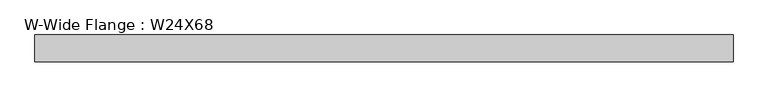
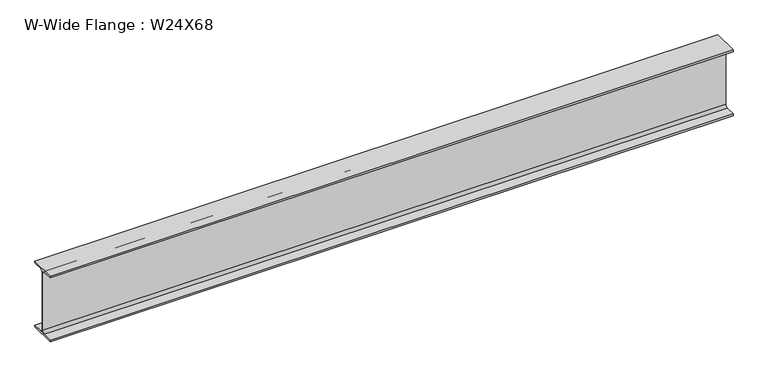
"""IFC4 building model written with IfcOpenShell, lengths in millimetres: beam geometry, W-Wide Flange : W24X68."""

from ifc_helpers import new_model, si_unit, point, frame, frame_2d, origin, place, context, project, spatial, polyline, circle_curve, trimmed, segment, composite_curve, outline, extrude, source, transform, mapped, element, save


def w_wide_flange_w24x68_76057f53(model_context):
    return source(origin(), model_context, "Body", "SweptSolid", [
        extrude(outline(composite_curve([segment(polyline([(-113.919, -286.131), (-28.5115, -286.131)]), True, "CONTINUOUS"), segment(trimmed(circle_curve(frame_2d((-28.5115, -262.89)), 23.241), [point((-28.5115, -286.131))], [point((-5.2705, -262.89))], True, "CARTESIAN"), True, "CONTINUOUS"), segment(polyline([(-5.2705, -262.89), (-5.2705, 262.89)]), True, "CONTINUOUS"), segment(trimmed(circle_curve(frame_2d((-28.5115, 262.89)), 23.241), [point((-5.2705, 262.89))], [point((-28.5115, 286.131))], True, "CARTESIAN"), True, "CONTINUOUS"), segment(polyline([(-28.5115, 286.131), (-113.919, 286.131), (-113.919, 300.99), (113.919, 300.99), (113.919, 286.131), (28.5115, 286.131)]), True, "CONTINUOUS"), segment(trimmed(circle_curve(frame_2d((28.5115, 262.89)), 23.241), [point((28.5115, 286.131))], [point((5.2705, 262.89))], True, "CARTESIAN"), True, "CONTINUOUS"), segment(polyline([(5.2705, 262.89), (5.2705, -262.89)]), True, "CONTINUOUS"), segment(trimmed(circle_curve(frame_2d((28.5115, -262.89)), 23.241), [point((5.2705, -262.89))], [point((28.5115, -286.131))], True, "CARTESIAN"), True, "CONTINUOUS"), segment(polyline([(28.5115, -286.131), (113.919, -286.131), (113.919, -300.99), (-113.919, -300.99), (-113.919, -286.131)]), True, "CONTINUOUS")], self_intersect=False)), frame((-2964.4471348, 0.0, 0.0), z_axis=(1.0, 0.0, 0.0), x_axis=(0.0, 1.0, 0.0)), (0.0, 0.0, 1.0), 5928.8942696),
    ])


if __name__ == "__main__":
    model = new_model("IFC4")
    model_context = context("Model", 3, world=origin())
    ifc_project = project(units=[si_unit("LENGTHUNIT", "METRE", prefix="MILLI")], contexts=[model_context])
    site = spatial("IfcSite", under=ifc_project)
    building = spatial("IfcBuilding", under=site)
    placement = place(None, origin())
    w_wide_flange_w24x68_shape = w_wide_flange_w24x68_76057f53(model_context)
    element("IfcBeam", 1, ObjectType="W-Wide Flange : W24X68", at=placement, inside=building, context=model_context, shape_type="MappedRepresentation", body=[
        mapped(w_wide_flange_w24x68_shape, transform((0.0, 0.0, 0.0), x_axis=(1.0, 0.0, 0.0), y_axis=(0.0, 1.0, 0.0), z_axis=(0.0, 0.0, 1.0))),
    ])
    save(model, "model.ifc")
